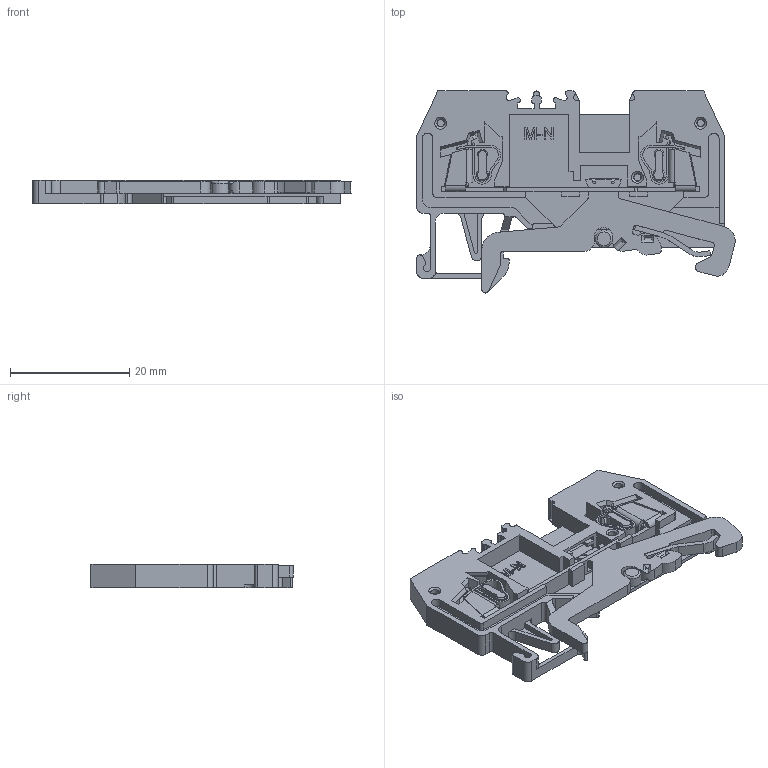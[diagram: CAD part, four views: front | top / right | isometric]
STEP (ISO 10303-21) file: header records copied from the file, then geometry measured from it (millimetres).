
FILE_DESCRIPTION (( 'STEP AP203' ), '1' );
FILE_NAME ('ﾊﾏﾐ1-1,5-2ﾂ-ﾐﾅ.STEP', '2019-03-01T13:51:41', ( '' ), ( '' ), 'SwSTEP 2.0', 'SolidWorks 2016', '' );
FILE_SCHEMA (( 'CONFIG_CONTROL_DESIGN' ));
Length unit declared in the file: millimetre
Products named in the file (1): ﾊﾏﾐ1-1,5-2ﾂ-ﾐﾅ
Bounding box: 53.39 x 33.9 x 4 mm (x, y, z)
Volume: 2843.1 mm3; surface area: 6285.4 mm2
Topology: 6 solids, 6 shells, 816 faces, 2289 edges, 1498 vertices
Faces by surface type: plane 584, cylinder 188, bspline 24, cone 16, torus 4
Full cylindrical faces by diameter (mm): 1.4 x3, 1.6 x3, 2.9 x1
Entity records: 27300 total; most frequent: CARTESIAN_POINT 6209, ORIENTED_EDGE 4540, DIRECTION 4135, EDGE_CURVE 2270, LINE 1779, VECTOR 1779, VERTEX_POINT 1496, AXIS2_PLACEMENT_3D 1178
